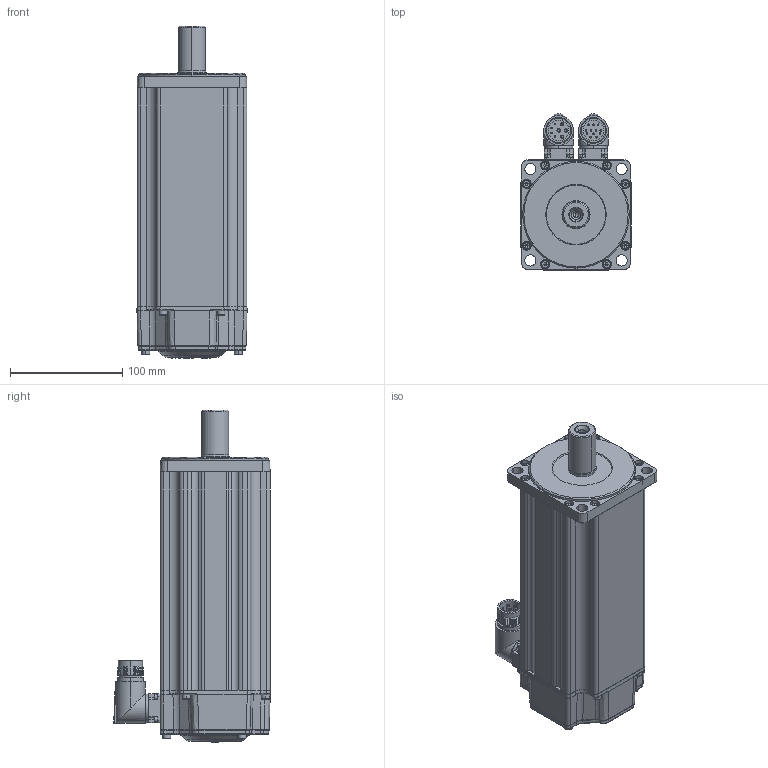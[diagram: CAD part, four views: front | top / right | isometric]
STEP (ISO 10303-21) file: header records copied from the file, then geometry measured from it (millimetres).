
FILE_DESCRIPTION (( 'STEP AP203' ), '1' );
FILE_NAME ('MC20-100-3L30-N252-1¡õPL-NNNN.STEP', '2025-07-29T14:47:15', ( '' ), ( '' ), 'SwSTEP 2.0', 'SolidWorks 2014', '' );
FILE_SCHEMA (( 'CONFIG_CONTROL_DESIGN' ));
Products named in the file (1): MC20-100-3L30-N252-1¡õPL-NNNN
Bounding box: 98.04 x 139.27 x 295.49 mm (x, y, z)
Volume: 2259053.8 mm3; surface area: 226666.1 mm2
Topology: 31 solids, 31 shells, 2062 faces, 4785 edges, 2837 vertices
Faces by surface type: plane 759, cylinder 542, cone 363, bspline 211, torus 182, sphere 5
Entity records: 64362 total; most frequent: CARTESIAN_POINT 18685, DIRECTION 9633, ORIENTED_EDGE 9382, EDGE_CURVE 4691, AXIS2_PLACEMENT_3D 3761, VERTEX_POINT 2837, EDGE_LOOP 2280, LINE 2111
